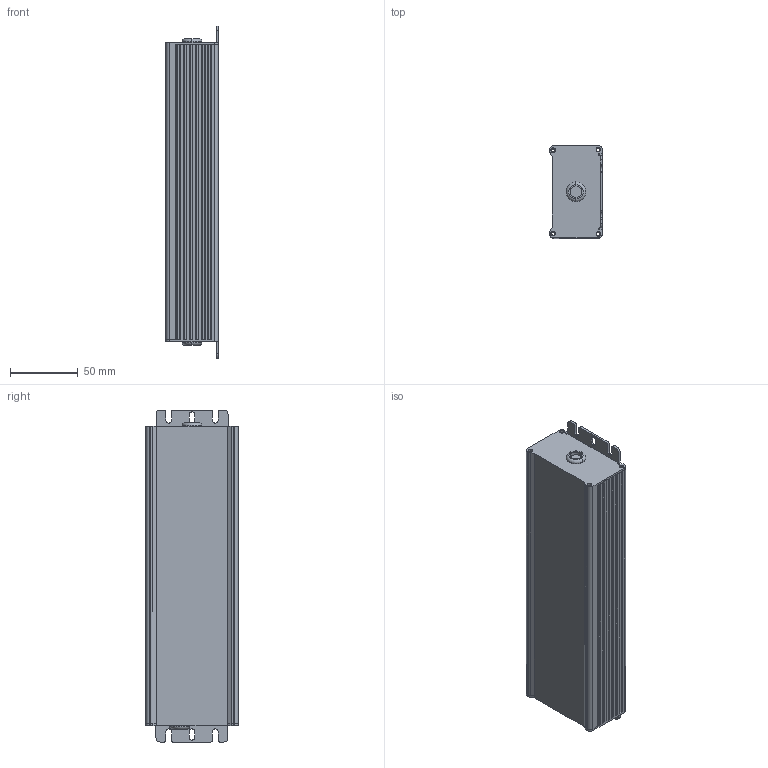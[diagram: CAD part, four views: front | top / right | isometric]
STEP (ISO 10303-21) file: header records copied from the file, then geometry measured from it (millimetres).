
FILE_DESCRIPTION(('Creo Elements/Direct Modeling STEP Export'),'2;1');
FILE_NAME('HEP-240-B.stp','2015-12-16T14:41:27',(''),(''),'PTC Creo Elements/Direct Modeling STEP processor for AP214 (Solid Model)','PTC Creo Elements/Direct Modeling 19.0 09-May-2014 (C) Parametric Technology GmbH','');
FILE_SCHEMA(('AUTOMOTIVE_DESIGN { 1 0 10303 214 1 1 1 1 }'));
Length unit declared in the file: millimetre
Products named in the file (2): CASE.PRT.1; HEP-240-B.stp
Assembly tree (1 placements, depth 2):
  HEP-240-B.stp
    CASE.PRT.1
Bounding box: 38.74 x 68.05 x 244.2 mm (x, y, z)
Volume: 101752.1 mm3; surface area: 114662.5 mm2
Topology: 1 solids, 1 shells, 287 faces, 831 edges, 540 vertices
Faces by surface type: plane 186, cylinder 93, torus 8
Entity records: 9270 total; most frequent: ORIENTED_EDGE 1662, CARTESIAN_POINT 1648, DIRECTION 1519, EDGE_CURVE 831, VECTOR 597, LINE 597, VERTEX_POINT 540, AXIS2_PLACEMENT_3D 461
